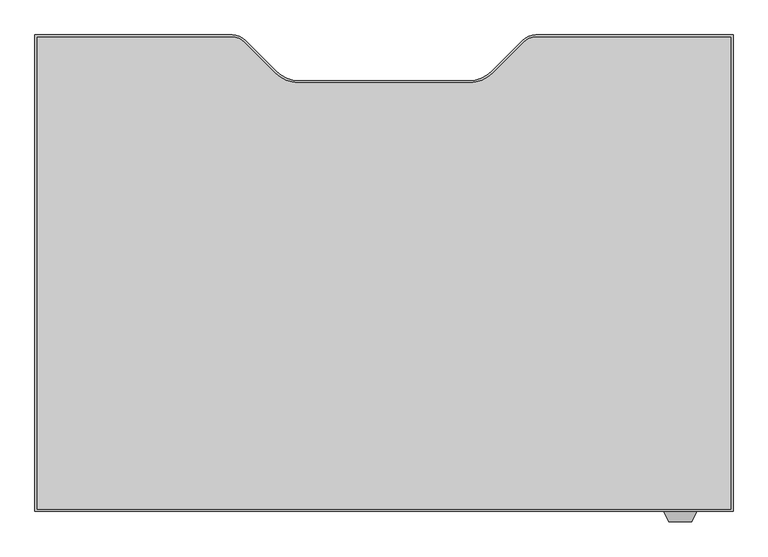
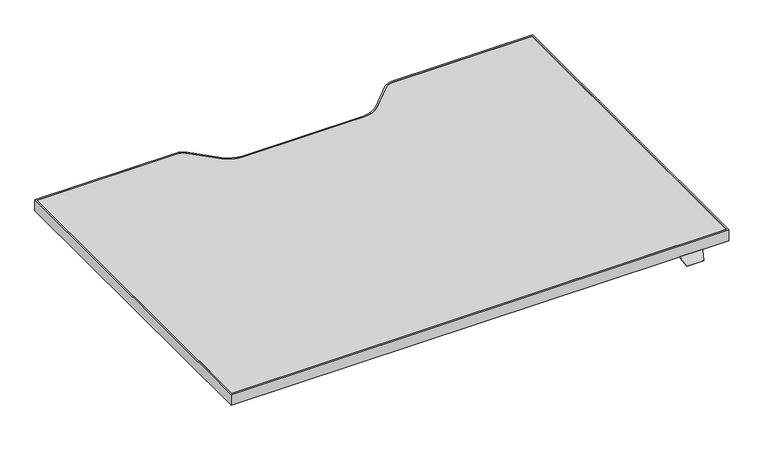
"""IFC4 building model written with IfcOpenShell, lengths in millimetres: furniture geometry, Steelcase Turnstone - Bivi - Height Adjustable Desk - C Base : 29D x 42.5W."""

from ifc_helpers import new_model, si_unit, point, frame, frame_2d, origin, place, context, project, spatial, polyline, circle_curve, trimmed, segment, composite_curve, outline, extrude, faceted_brep, source, transform, mapped, element, save


def furniture_057ee53e(model_context):
    return source(origin(), model_context, "Body", "SolidModel", [
        faceted_brep([(93.7677913, -465.8301693, 760.9984131), (93.7677913, -463.3074599, 760.9984131), (93.7677913, -463.3074599, 762.4), (93.7677913, -465.8490853, 762.4), (93.7677913, -467.1594921, 761.3004382), (93.7677913, -467.1594921, 759.8829789), (44.1948135, -465.8490853, 762.4), (44.1948135, -463.3074599, 762.4), (44.1948135, -463.3074599, 760.9984131), (44.1948135, -465.8301693, 760.9984131), (44.1948135, -467.1594921, 759.8829789), (44.1948135, -467.1594921, 761.3004382), (86.7858363, -482.1323429, 748.7367246), (51.1767685, -482.1323429, 748.7367246), (50.8173686, -481.3616074, 747.9659891), (87.1452362, -481.3616074, 747.9659891)], [[[0, 1, 2, 3, 4, 5]], [[6, 7, 8, 9, 10, 11]], [[12, 13, 14, 15]], [[9, 0, 5, 15, 14, 10]], [[1, 0, 9, 8]], [[2, 1, 8, 7]], [[3, 2, 7, 6]], [[3, 6, 11, 13, 12, 4]], [[5, 4, 12, 15]], [[11, 10, 14, 13]]]),
        extrude(outline(composite_curve([segment(polyline([(-928.9785908, 270.7509147), (-623.9070191, 270.7509147)]), True, "CONTINUOUS"), segment(trimmed(circle_curve(frame_2d((-623.9070191, 242.0489147)), 28.702), [point((-623.9070191, 270.7509147))], [point((-603.6116402, 262.3442935))], False, "CARTESIAN"), True, "CONTINUOUS"), segment(polyline([(-603.6116402, 262.3442935), (-556.0972358, 214.8298891)]), True, "CONTINUOUS"), segment(trimmed(circle_curve(frame_2d((-520.1762113, 250.7509136)), 50.8), [point((-556.0972358, 214.8298891))], [point((-520.1762113, 199.9509136))], True, "CARTESIAN"), True, "CONTINUOUS"), segment(polyline([(-520.1762113, 199.9509136), (-258.2809703, 199.9509136)]), True, "CONTINUOUS"), segment(trimmed(circle_curve(frame_2d((-258.2809703, 250.7509136)), 50.8), [point((-258.2809703, 199.9509136))], [point((-222.3599458, 214.8298891))], True, "CARTESIAN"), True, "CONTINUOUS"), segment(polyline([(-222.3599458, 214.8298891), (-174.8455414, 262.3442935)]), True, "CONTINUOUS"), segment(trimmed(circle_curve(frame_2d((-154.5501625, 242.0489147)), 28.702), [point((-174.8455414, 262.3442935))], [point((-154.5501625, 270.7509147))], False, "CARTESIAN"), True, "CONTINUOUS"), segment(polyline([(-154.5501625, 270.7509147), (150.5214092, 270.7509147), (150.5214092, -465.8490853), (-928.9785908, -465.8490853), (-928.9785908, 270.7509147)]), True, "CONTINUOUS")], self_intersect=False), holes=[composite_curve([segment(polyline([(-925.5987543, 267.4489147), (-925.5987543, -462.5470853), (147.2194092, -462.5470853), (147.2194092, 267.4489147), (-154.5501625, 267.4489147)]), True, "CONTINUOUS"), segment(trimmed(circle_curve(frame_2d((-154.5501625, 242.0489147)), 25.4), [point((-154.5501625, 267.4489147))], [point((-172.5106748, 260.0094269))], True, "CARTESIAN"), True, "CONTINUOUS"), segment(polyline([(-172.5106748, 260.0094269), (-220.527602, 211.9924998)]), True, "CONTINUOUS"), segment(trimmed(circle_curve(frame_2d((-256.4486265, 247.9135242)), 50.8), [point((-220.527602, 211.9924998))], [point((-256.4486265, 197.1135242))], False, "CARTESIAN"), True, "CONTINUOUS"), segment(polyline([(-256.4486265, 197.1135242), (-389.2285908, 197.1135242), (-522.0085552, 197.1135242)]), True, "CONTINUOUS"), segment(trimmed(circle_curve(frame_2d((-522.0085552, 247.9135242)), 50.8), [point((-522.0085552, 197.1135242))], [point((-557.9295796, 211.9924998))], False, "CARTESIAN"), True, "CONTINUOUS"), segment(polyline([(-557.9295796, 211.9924998), (-605.9465068, 260.0094269)]), True, "CONTINUOUS"), segment(trimmed(circle_curve(frame_2d((-623.9070191, 242.0489147)), 25.4), [point((-605.9465068, 260.0094269))], [point((-623.9070191, 267.4489147))], True, "CARTESIAN"), True, "CONTINUOUS"), segment(polyline([(-623.9070191, 267.4489147), (-925.5987543, 267.4489147)]), True, "CONTINUOUS")], self_intersect=False)]), frame((0.0, 0.0, 762.4), z_axis=(0.0, 0.0, 1.0), x_axis=(1.0, 0.0, 0.0)), (0.0, 0.0, 1.0), 25.0),
        extrude(outline(composite_curve([segment(polyline([(-925.5987543, 267.4489147), (-623.9070191, 267.4489147)]), True, "CONTINUOUS"), segment(trimmed(circle_curve(frame_2d((-623.9070191, 242.0489147)), 25.4), [point((-623.9070191, 267.4489147))], [point((-605.9465068, 260.0094269))], False, "CARTESIAN"), True, "CONTINUOUS"), segment(polyline([(-605.9465068, 260.0094269), (-557.9295796, 211.9924998)]), True, "CONTINUOUS"), segment(trimmed(circle_curve(frame_2d((-522.0085552, 247.9135242)), 50.8), [point((-557.9295796, 211.9924998))], [point((-522.0085552, 197.1135242))], True, "CARTESIAN"), True, "CONTINUOUS"), segment(polyline([(-522.0085552, 197.1135242), (-389.2285908, 197.1135242), (-256.4486265, 197.1135242)]), True, "CONTINUOUS"), segment(trimmed(circle_curve(frame_2d((-256.4486265, 247.9135242)), 50.8), [point((-256.4486265, 197.1135242))], [point((-220.527602, 211.9924998))], True, "CARTESIAN"), True, "CONTINUOUS"), segment(polyline([(-220.527602, 211.9924998), (-172.5106748, 260.0094269)]), True, "CONTINUOUS"), segment(trimmed(circle_curve(frame_2d((-154.5501625, 242.0489147)), 25.4), [point((-172.5106748, 260.0094269))], [point((-154.5501625, 267.4489147))], False, "CARTESIAN"), True, "CONTINUOUS"), segment(polyline([(-154.5501625, 267.4489147), (147.2194092, 267.4489147), (147.2194092, -462.5470853), (-925.5987543, -462.5470853), (-925.5987543, 267.4489147)]), True, "CONTINUOUS")], self_intersect=False)), frame((0.0, 0.0, 762.4), z_axis=(0.0, 0.0, 1.0), x_axis=(1.0, 0.0, 0.0)), (0.0, 0.0, 1.0), 25.0),
    ])


if __name__ == "__main__":
    model = new_model("IFC4")
    model_context = context("Model", 3, world=origin())
    ifc_project = project(units=[si_unit("LENGTHUNIT", "METRE", prefix="MILLI")], contexts=[model_context])
    site = spatial("IfcSite", under=ifc_project)
    building = spatial("IfcBuilding", under=site)
    placement = place(None, origin())
    furniture_shape = furniture_057ee53e(model_context)
    element("IfcFurniture", 1, ObjectType="Steelcase Turnstone - Bivi - Height Adjustable Desk - C Base : 29D x 42.5W", at=placement, inside=building, context=model_context, shape_type="MappedRepresentation", body=[
        mapped(furniture_shape, transform((0.0, 0.0, 0.0), x_axis=(1.0, 0.0, 0.0), y_axis=(0.0, 1.0, 0.0), z_axis=(0.0, 0.0, 1.0))),
    ])
    save(model, "model.ifc")
